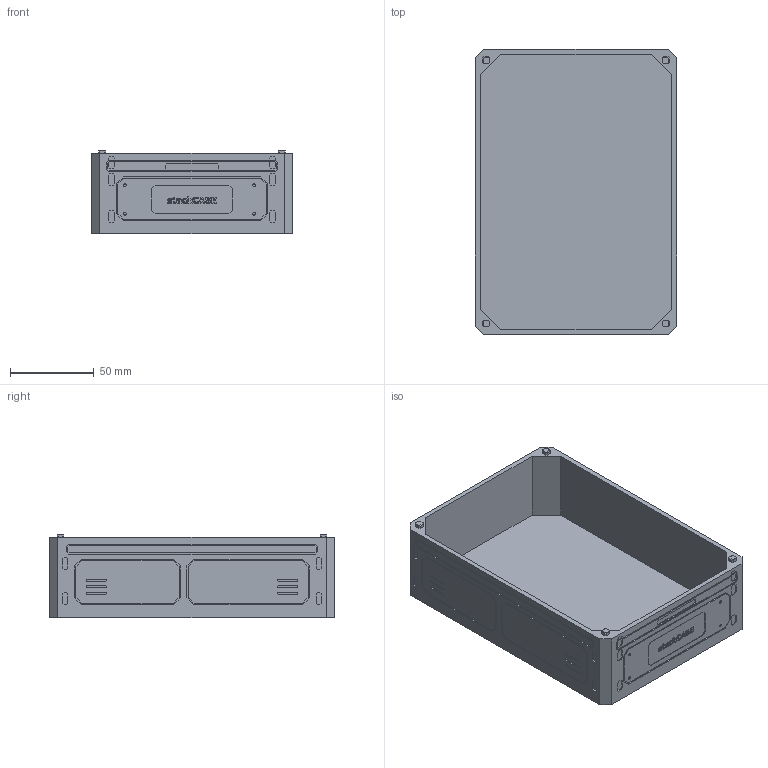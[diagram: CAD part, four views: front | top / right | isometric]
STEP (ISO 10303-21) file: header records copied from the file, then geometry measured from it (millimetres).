
FILE_DESCRIPTION(('Open CASCADE Model'),'2;1');
FILE_NAME('Open CASCADE Shape Model','2026-10-02T12:54:51',('Author'),( 'Open CASCADE'),'Open CASCADE STEP processor 7.8','Open CASCADE 7.8' ,'Unknown');
FILE_SCHEMA(('AUTOMOTIVE_DESIGN { 1 0 10303 214 1 1 1 1 }'));
Products named in the file (1): Open CASCADE STEP translator 7.8 1
Bounding box: 120 x 170 x 50 mm (x, y, z)
Volume: 182520.3 mm3; surface area: 94641.7 mm2
Topology: 1 solids, 1 shells, 1021 faces, 2752 edges, 1824 vertices
Faces by surface type: plane 805, extrusion 208, cylinder 8
Full cylindrical faces by diameter (mm): 1.6 x8
Entity records: 70092 total; most frequent: CARTESIAN_POINT 19010, DIRECTION 7668, VECTOR 6000, LINE 5792, ORIENTED_EDGE 5504, PCURVE 5504, DEFINITIONAL_REPRESENTATION 5504, EDGE_CURVE 2752
